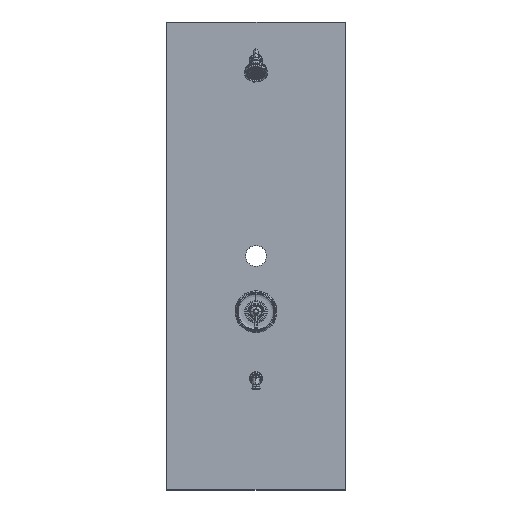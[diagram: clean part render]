
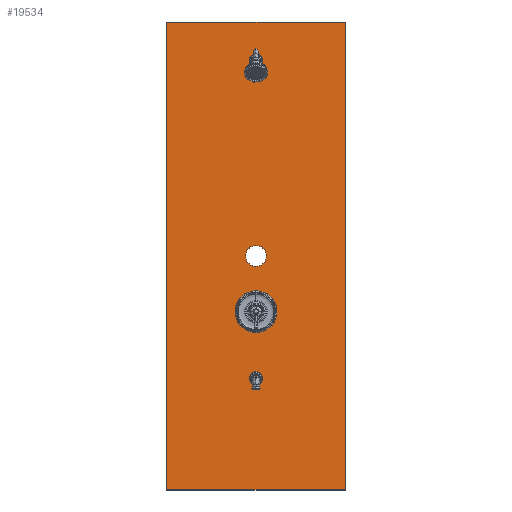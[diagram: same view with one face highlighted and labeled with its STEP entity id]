
A CAD part, top view. The second image highlights one B-rep face of the part: STEP entity #19534.
In plain terms, the highlighted planar face has unit normal (0, 0, 1).
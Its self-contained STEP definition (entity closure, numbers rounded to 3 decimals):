
#2025 = CARTESIAN_POINT ( 'NONE',  ( -1.875, 10., 0. ) ) ;
#3015 = VECTOR ( 'NONE', #43444, 39.37 ) ;
#3209 = VECTOR ( 'NONE', #4252, 39.37 ) ;
#3262 = CIRCLE ( 'NONE', #19603, 1.875 ) ;
#4130 = ORIENTED_EDGE ( 'NONE', *, *, #19644, .F. ) ;
#4252 = DIRECTION ( 'NONE',  ( 0., 1., 0. ) ) ;
#5913 = DIRECTION ( 'NONE',  ( 0., 0., 1. ) ) ;
#6820 = EDGE_CURVE ( 'NONE', #23678, #34788, #17393, .T. ) ;
#7911 = EDGE_CURVE ( 'NONE', #34788, #43871, #42634, .T. ) ;
#8897 = ORIENTED_EDGE ( 'NONE', *, *, #41277, .T. ) ;
#12641 = EDGE_CURVE ( 'NONE', #17407, #23678, #19657, .T. ) ;
#13504 = DIRECTION ( 'NONE',  ( 1., 0., 0. ) ) ;
#14360 = CARTESIAN_POINT ( 'NONE',  ( 16., 52., 0. ) ) ;
#14372 = PLANE ( 'NONE',  #19308 ) ;
#14534 = VERTEX_POINT ( 'NONE', #2025 ) ;
#16851 = DIRECTION ( 'NONE',  ( 0., 0., 1. ) ) ;
#17393 = LINE ( 'NONE', #31583, #3209 ) ;
#17407 = VERTEX_POINT ( 'NONE', #41111 ) ;
#18258 = ORIENTED_EDGE ( 'NONE', *, *, #41197, .F. ) ;
#19061 = CARTESIAN_POINT ( 'NONE',  ( 0., 10., 0. ) ) ;
#19308 = AXIS2_PLACEMENT_3D ( 'NONE', #31235, #16851, #13504 ) ;
#19534 = ADVANCED_FACE ( 'NONE', ( #31027, #34135 ), #14372, .T. ) ;
#19603 = AXIS2_PLACEMENT_3D ( 'NONE', #19061, #5913, #29257 ) ;
#19644 = EDGE_CURVE ( 'NONE', #30523, #14534, #22136, .T. ) ;
#19657 = LINE ( 'NONE', #33193, #3015 ) ;
#20585 = LINE ( 'NONE', #33898, #40231 ) ;
#22136 = CIRCLE ( 'NONE', #39890, 1.875 ) ;
#22518 = CARTESIAN_POINT ( 'NONE',  ( 1.875, 10., 0. ) ) ;
#23061 = DIRECTION ( 'NONE',  ( -1., 0., 0. ) ) ;
#23678 = VERTEX_POINT ( 'NONE', #26761 ) ;
#23955 = DIRECTION ( 'NONE',  ( 0., 0., 1. ) ) ;
#26761 = CARTESIAN_POINT ( 'NONE',  ( 16., -32., 0. ) ) ;
#27161 = ORIENTED_EDGE ( 'NONE', *, *, #7911, .T. ) ;
#29257 = DIRECTION ( 'NONE',  ( 1., 0., 0. ) ) ;
#29566 = VECTOR ( 'NONE', #23061, 39.37 ) ;
#29883 = EDGE_LOOP ( 'NONE', ( #4130, #18258 ) ) ;
#30347 = DIRECTION ( 'NONE',  ( 0., -1., 0. ) ) ;
#30523 = VERTEX_POINT ( 'NONE', #22518 ) ;
#31027 = FACE_BOUND ( 'NONE', #29883, .T. ) ;
#31235 = CARTESIAN_POINT ( 'NONE',  ( -16., -32., 0. ) ) ;
#31583 = CARTESIAN_POINT ( 'NONE',  ( 16., 52., 0. ) ) ;
#33193 = CARTESIAN_POINT ( 'NONE',  ( -16., -32., 0. ) ) ;
#33898 = CARTESIAN_POINT ( 'NONE',  ( -16., 52., 0. ) ) ;
#34135 = FACE_OUTER_BOUND ( 'NONE', #43859, .T. ) ;
#34351 = CARTESIAN_POINT ( 'NONE',  ( 0., 10., 0. ) ) ;
#34788 = VERTEX_POINT ( 'NONE', #14360 ) ;
#35345 = ORIENTED_EDGE ( 'NONE', *, *, #6820, .T. ) ;
#35714 = CARTESIAN_POINT ( 'NONE',  ( -16., 52., 0. ) ) ;
#36675 = ORIENTED_EDGE ( 'NONE', *, *, #12641, .T. ) ;
#39890 = AXIS2_PLACEMENT_3D ( 'NONE', #34351, #23955, #41061 ) ;
#40231 = VECTOR ( 'NONE', #30347, 39.37 ) ;
#41061 = DIRECTION ( 'NONE',  ( 1., 0., 0. ) ) ;
#41111 = CARTESIAN_POINT ( 'NONE',  ( -16., -32., 0. ) ) ;
#41197 = EDGE_CURVE ( 'NONE', #14534, #30523, #3262, .T. ) ;
#41277 = EDGE_CURVE ( 'NONE', #43871, #17407, #20585, .T. ) ;
#41945 = CARTESIAN_POINT ( 'NONE',  ( -16., 52., 0. ) ) ;
#42634 = LINE ( 'NONE', #35714, #29566 ) ;
#43444 = DIRECTION ( 'NONE',  ( 1., 0., 0. ) ) ;
#43859 = EDGE_LOOP ( 'NONE', ( #8897, #36675, #35345, #27161 ) ) ;
#43871 = VERTEX_POINT ( 'NONE', #41945 ) ;
